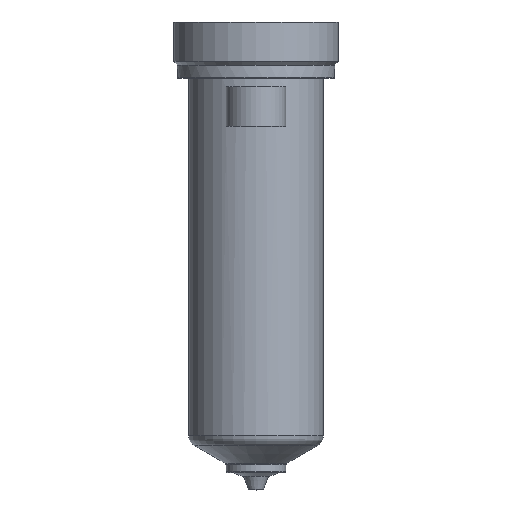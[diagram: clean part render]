
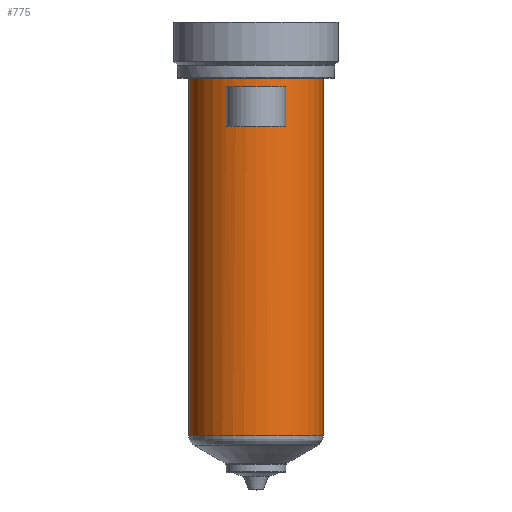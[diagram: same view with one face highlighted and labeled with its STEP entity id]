
A CAD part, top view. The second image highlights one B-rep face of the part: STEP entity #775.
In plain terms, the highlighted cylindrical face has radius 18 mm (diameter 36 mm), a partial arc.
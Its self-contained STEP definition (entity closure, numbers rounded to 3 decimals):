
#187=DIRECTION('',(0.,-1.,0.));
#188=VECTOR('',#187,95.506);
#189=CARTESIAN_POINT('',(18.,0.,0.));
#190=LINE('',#189,#188);
#191=CARTESIAN_POINT('',(0.,-95.506,0.));
#192=DIRECTION('',(0.,1.,0.));
#193=DIRECTION('',(-1.,0.,0.));
#194=AXIS2_PLACEMENT_3D('',#191,#192,#193);
#196=DIRECTION('',(0.,1.,0.));
#197=VECTOR('',#196,95.506);
#198=CARTESIAN_POINT('',(-18.,-95.506,0.));
#199=LINE('',#198,#197);
#200=CARTESIAN_POINT('',(0.,0.,0.));
#201=DIRECTION('',(0.,1.,0.));
#202=DIRECTION('',(-1.,0.,0.));
#203=AXIS2_PLACEMENT_3D('',#200,#201,#202);
#349=DIRECTION('',(0.,-1.,0.));
#350=VECTOR('',#349,10.5);
#351=CARTESIAN_POINT('',(-8.,-2.5,16.125));
#352=LINE('',#351,#350);
#353=CARTESIAN_POINT('',(0.,-13.,0.));
#354=DIRECTION('',(0.,1.,0.));
#355=DIRECTION('',(-0.444,0.,0.896));
#356=AXIS2_PLACEMENT_3D('',#353,#354,#355);
#379=CARTESIAN_POINT('',(0.,-2.5,0.));
#380=DIRECTION('',(0.,-1.,0.));
#381=DIRECTION('',(0.444,0.,0.896));
#382=AXIS2_PLACEMENT_3D('',#379,#380,#381);
#397=DIRECTION('',(0.,-1.,0.));
#398=VECTOR('',#397,10.5);
#399=CARTESIAN_POINT('',(8.,-2.5,16.125));
#400=LINE('',#399,#398);
#458=CARTESIAN_POINT('',(-18.,0.,0.));
#459=CARTESIAN_POINT('',(18.,0.,0.));
#460=VERTEX_POINT('',#458);
#461=VERTEX_POINT('',#459);
#470=CARTESIAN_POINT('',(-8.,-2.5,16.125));
#471=VERTEX_POINT('',#470);
#472=CARTESIAN_POINT('',(8.,-2.5,16.125));
#473=VERTEX_POINT('',#472);
#506=CARTESIAN_POINT('',(18.,-95.506,0.));
#507=VERTEX_POINT('',#506);
#516=CARTESIAN_POINT('',(-18.,-95.506,0.));
#517=VERTEX_POINT('',#516);
#534=CARTESIAN_POINT('',(-8.,-13.,16.125));
#535=CARTESIAN_POINT('',(8.,-13.,16.125));
#536=VERTEX_POINT('',#534);
#537=VERTEX_POINT('',#535);
#753=CARTESIAN_POINT('',(0.,16.4,0.));
#754=DIRECTION('',(0.,-1.,0.));
#755=DIRECTION('',(-1.,0.,0.));
#756=AXIS2_PLACEMENT_3D('',#753,#754,#755);
#757=CYLINDRICAL_SURFACE('',#756,18.);
#758=ORIENTED_EDGE('',*,*,#747,.T.);
#760=ORIENTED_EDGE('',*,*,#759,.F.);
#761=ORIENTED_EDGE('',*,*,#743,.T.);
#762=ORIENTED_EDGE('',*,*,#733,.T.);
#763=EDGE_LOOP('',(#758,#760,#761,#762));
#764=FACE_OUTER_BOUND('',#763,.F.);
#766=ORIENTED_EDGE('',*,*,#765,.T.);
#768=ORIENTED_EDGE('',*,*,#767,.T.);
#770=ORIENTED_EDGE('',*,*,#769,.F.);
#772=ORIENTED_EDGE('',*,*,#771,.T.);
#773=EDGE_LOOP('',(#766,#768,#770,#772));
#774=FACE_BOUND('',#773,.F.);
#775=ADVANCED_FACE('',(#764,#774),#757,.T.);
#195=CIRCLE('',#194,18.);
#204=CIRCLE('',#203,18.);
#357=CIRCLE('',#356,18.);
#383=CIRCLE('',#382,18.);
#733=EDGE_CURVE('',#460,#461,#204,.T.);
#743=EDGE_CURVE('',#517,#460,#199,.T.);
#747=EDGE_CURVE('',#461,#507,#190,.T.);
#759=EDGE_CURVE('',#517,#507,#195,.T.);
#765=EDGE_CURVE('',#471,#536,#352,.T.);
#767=EDGE_CURVE('',#536,#537,#357,.T.);
#769=EDGE_CURVE('',#473,#537,#400,.T.);
#771=EDGE_CURVE('',#473,#471,#383,.T.);
